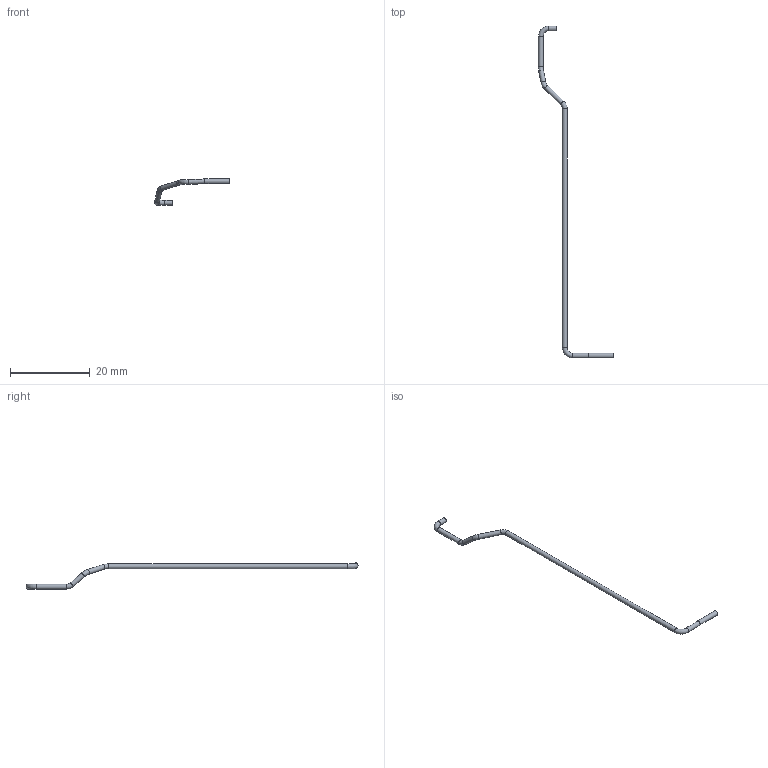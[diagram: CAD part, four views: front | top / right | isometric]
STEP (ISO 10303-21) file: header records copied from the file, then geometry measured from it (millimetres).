
FILE_DESCRIPTION(('Open CASCADE Model'),'2;1');
FILE_NAME('C27_R2_REF_Battery_Lead_1_100mm','2026-09-10T02:58:51',( 'Author'),('Open CASCADE'),'Open CASCADE STEP processor 7.9', 'build123d','Unknown');
FILE_SCHEMA(('AUTOMOTIVE_DESIGN { 1 0 10303 214 1 1 1 1 }'));
Length unit declared in the file: millimetre
Products named in the file (1): C27_R2_REF_Battery_Lead_1_100mm
Bounding box: 18.82 x 83.18 x 6.56 mm (x, y, z)
Volume: 113.1 mm3; surface area: 379.3 mm2
Topology: 1 solids, 1 shells, 15 faces, 27 edges, 14 vertices
Faces by surface type: cylinder 7, torus 6, plane 2
Full cylindrical faces by diameter (mm): 1.2 x7
Entity records: 712 total; most frequent: CARTESIAN_POINT 136, DIRECTION 108, ORIENTED_EDGE 54, PCURVE 54, DEFINITIONAL_REPRESENTATION 54, AXIS2_PLACEMENT_3D 36, LINE 34, VECTOR 34
